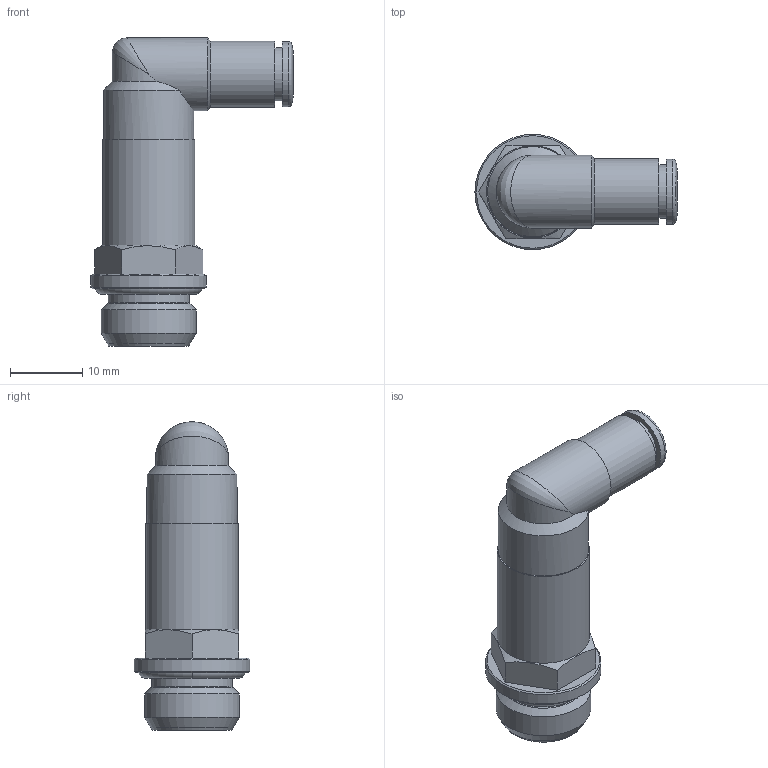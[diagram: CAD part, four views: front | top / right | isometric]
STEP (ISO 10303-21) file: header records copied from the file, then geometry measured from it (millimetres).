
FILE_DESCRIPTION(('Bauteilbeschreibung','HiCAD-Model','HiCAD-STEP-TRANSLATION','Bauteilbeschreibung'),'2;1');
FILE_NAME('B:/ABGLEICH/ZEICHNUNGEN/STEP FÜR INTERNET/STEP/IPSO 026/202602_IPSO_026_4_1-4.STP','2012-02-14T17:14:26+00:00',('Konstrukteur'),('Konstrukteur Firma GmbH'),' HiCAD neXt 2008, Step 3.1.1401.2J ','HiCAD neXt 2008','confidential');
FILE_SCHEMA(('AUTOMOTIVE_DESIGN { 1 2 10303 214 0 1 1 1 }'));
Length unit declared in the file: millimetre
Products named in the file (7): A02602_IPSO_026_4_1_4; OR 11_11X1_78; DR4_1_NEU; R202201_N2; A14613_N2; A146130N2; G 1_4
Assembly tree (6 placements, depth 3):
  A02602_IPSO_026_4_1_4
    OR 11_11X1_78
    DR4_1_NEU
    R202201_N2
    A14613_N2
    A146130N2
      G 1_4
Bounding box: 28 x 16 x 42.75 mm (x, y, z)
Volume: 4493.2 mm3; surface area: 5057.3 mm2
Topology: 5 solids, 5 shells, 77 faces, 166 edges, 100 vertices
Faces by surface type: cylinder 25, cone 24, plane 20, torus 7, bspline 1
Full cylindrical faces by diameter (mm): 3 x1, 4.1 x2, 5.5 x1, 6 x1, 6.4 x1, 7.3 x1, 7.4 x1, 7.6 x1, 8.5 x1, 9 x3, 9.1 x1, 10.1 x3, 11.2 x1, 11.445 x2, 12.5 x1, 12.8 x1, 13.157 x1, 16 x1
Entity records: 3514 total; most frequent: CARTESIAN_POINT 1520, DIRECTION 334, ORIENTED_EDGE 194, AXIS2_PLACEMENT_3D 161, EDGE_LOOP 141, EDGE_CURVE 97, COLOUR_RGB 88, PRESENTATION_STYLE_ASSIGNMENT 88
